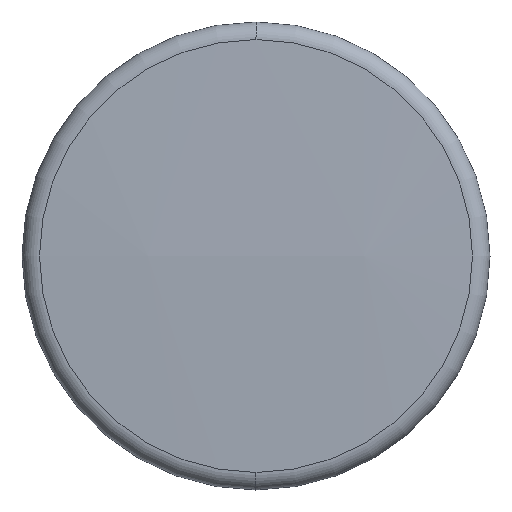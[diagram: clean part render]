
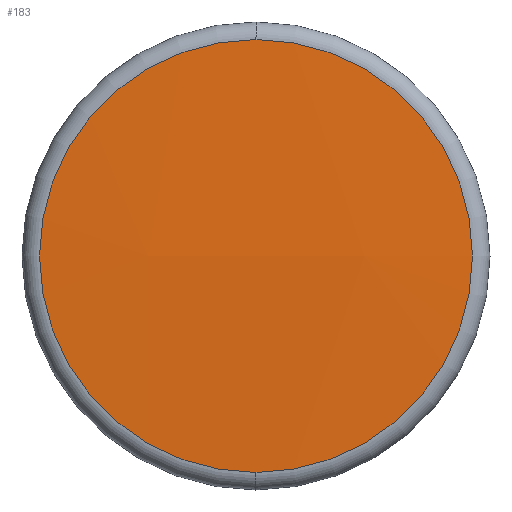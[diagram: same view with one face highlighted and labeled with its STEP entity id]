
A CAD part, front view. The second image highlights one B-rep face of the part: STEP entity #183.
In plain terms, the highlighted spherical face has radius 342.5 mm.
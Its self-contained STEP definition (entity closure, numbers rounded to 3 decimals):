
#113 = VERTEX_POINT( '', #266 );
#115 = EDGE_CURVE( '', #153, #113, #268, .T. );
#153 = VERTEX_POINT( '', #307 );
#183 = ADVANCED_FACE( '', ( #340 ), #341, .T. );
#193 = EDGE_CURVE( '', #113, #153, #352, .T. );
#266 = CARTESIAN_POINT( '', ( 0., -26.5, -18.5 ) );
#268 = CIRCLE( '', #428, 18.5 );
#307 = CARTESIAN_POINT( '', ( 0., -26.5, 18.5 ) );
#340 = FACE_OUTER_BOUND( '', #520, .T. );
#341 = SPHERICAL_SURFACE( '', #521, 342.5 );
#352 = CIRCLE( '', #534, 18.5 );
#428 = AXIS2_PLACEMENT_3D( '', #625, #626, #627 );
#520 = EDGE_LOOP( '', ( #708, #709 ) );
#521 = AXIS2_PLACEMENT_3D( '', #710, #711, #712 );
#534 = AXIS2_PLACEMENT_3D( '', #724, #725, #726 );
#625 = CARTESIAN_POINT( '', ( 0., -26.5, 0. ) );
#626 = DIRECTION( '', ( 0., -1., 0. ) );
#627 = DIRECTION( '', ( 0., 0., 1. ) );
#708 = ORIENTED_EDGE( '', *, *, #115, .T. );
#709 = ORIENTED_EDGE( '', *, *, #193, .T. );
#710 = CARTESIAN_POINT( '', ( 0., 315.5, 0. ) );
#711 = DIRECTION( '', ( 0., 0., 1. ) );
#712 = DIRECTION( '', ( 1., 0., 0. ) );
#724 = CARTESIAN_POINT( '', ( 0., -26.5, 0. ) );
#725 = DIRECTION( '', ( 0., -1., 0. ) );
#726 = DIRECTION( '', ( 0., 0., 1. ) );
